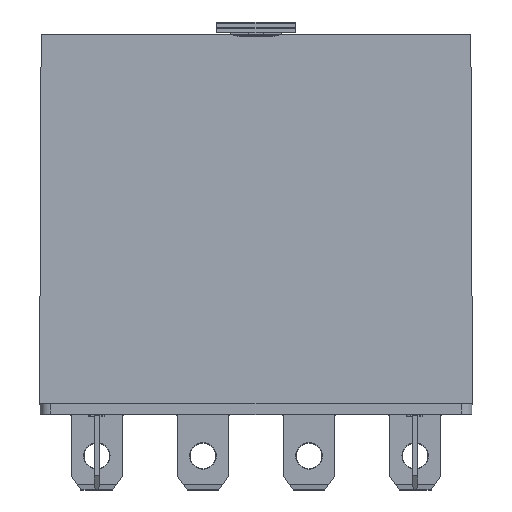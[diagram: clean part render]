
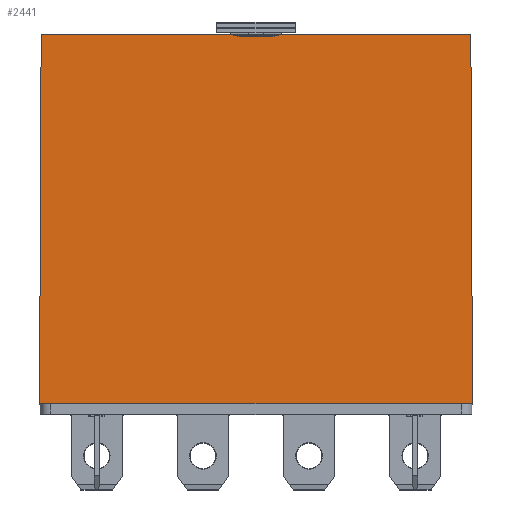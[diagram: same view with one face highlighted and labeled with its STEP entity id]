
A CAD part, top view. The second image highlights one B-rep face of the part: STEP entity #2441.
In plain terms, the highlighted planar face has unit normal (0, 0.004, 1).
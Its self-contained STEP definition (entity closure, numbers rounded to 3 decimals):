
#111 = DIRECTION ( 'NONE',  ( -0.004, -1., 0.004 ) ) ;
#153 = CARTESIAN_POINT ( 'NONE',  ( -1.5, 35.6, 13.349 ) ) ;
#259 = EDGE_CURVE ( 'NONE', #19623, #23112, #10386, .T. ) ;
#450 = LINE ( 'NONE', #23294, #26984 ) ;
#915 = DIRECTION ( 'NONE',  ( 0.981, 0.196, -0.001 ) ) ;
#1176 = CARTESIAN_POINT ( 'NONE',  ( -20.4, 35.6, 13.349 ) ) ;
#1649 = LINE ( 'NONE', #1176, #28207 ) ;
#2441 = ADVANCED_FACE ( 'NONE', ( #2612 ), #30507, .T. ) ;
#2612 = FACE_OUTER_BOUND ( 'NONE', #15776, .T. ) ;
#2724 = CARTESIAN_POINT ( 'NONE',  ( -20.4, 35.8, 13.348 ) ) ;
#2886 = VECTOR ( 'NONE', #30440, 1000. ) ;
#3334 = CARTESIAN_POINT ( 'NONE',  ( -20.4, 35.8, 13.348 ) ) ;
#3533 = CARTESIAN_POINT ( 'NONE',  ( 2.5, 35.8, 13.348 ) ) ;
#4256 = DIRECTION ( 'NONE',  ( 1., 0., 0. ) ) ;
#4680 = EDGE_CURVE ( 'NONE', #13807, #13220, #26251, .T. ) ;
#4744 = ORIENTED_EDGE ( 'NONE', *, *, #259, .F. ) ;
#4849 = DIRECTION ( 'NONE',  ( 0., 0.004, 1. ) ) ;
#5200 = ORIENTED_EDGE ( 'NONE', *, *, #12425, .T. ) ;
#5671 = VECTOR ( 'NONE', #915, 1000. ) ;
#6129 = CARTESIAN_POINT ( 'NONE',  ( -20.4, 1., 13.5 ) ) ;
#6434 = EDGE_CURVE ( 'NONE', #21029, #29337, #1649, .T. ) ;
#6663 = DIRECTION ( 'NONE',  ( 0.004, -1., 0.004 ) ) ;
#6813 = EDGE_CURVE ( 'NONE', #29337, #19623, #12503, .T. ) ;
#7185 = VECTOR ( 'NONE', #6663, 1000. ) ;
#7342 = CARTESIAN_POINT ( 'NONE',  ( 20.4, 1., 13.5 ) ) ;
#8730 = ORIENTED_EDGE ( 'NONE', *, *, #32806, .F. ) ;
#9857 = AXIS2_PLACEMENT_3D ( 'NONE', #20217, #4849, #22827 ) ;
#10144 = CARTESIAN_POINT ( 'NONE',  ( -13.019, 37.904, 13.339 ) ) ;
#10386 = LINE ( 'NONE', #2724, #23254 ) ;
#10943 = CARTESIAN_POINT ( 'NONE',  ( 1.5, 35.6, 13.349 ) ) ;
#11847 = ORIENTED_EDGE ( 'NONE', *, *, #26384, .F. ) ;
#11903 = CARTESIAN_POINT ( 'NONE',  ( -20.4, 1., 13.5 ) ) ;
#12425 = EDGE_CURVE ( 'NONE', #13220, #16430, #25039, .T. ) ;
#12503 = LINE ( 'NONE', #26543, #5671 ) ;
#12902 = EDGE_CURVE ( 'NONE', #16430, #29710, #16544, .T. ) ;
#13220 = VERTEX_POINT ( 'NONE', #6129 ) ;
#13403 = VECTOR ( 'NONE', #28126, 1000. ) ;
#13414 = VERTEX_POINT ( 'NONE', #7342 ) ;
#13807 = VERTEX_POINT ( 'NONE', #31747 ) ;
#15642 = DIRECTION ( 'NONE',  ( 1., 0., 0. ) ) ;
#15776 = EDGE_LOOP ( 'NONE', ( #8730, #11847, #21261, #5200, #18588, #22574, #31588, #4744, #20368, #22498 ) ) ;
#16430 = VERTEX_POINT ( 'NONE', #21141 ) ;
#16544 = LINE ( 'NONE', #27820, #2886 ) ;
#16937 = DIRECTION ( 'NONE',  ( 1., 0., 0. ) ) ;
#17584 = VECTOR ( 'NONE', #31812, 1000. ) ;
#18588 = ORIENTED_EDGE ( 'NONE', *, *, #12902, .T. ) ;
#19370 = VECTOR ( 'NONE', #111, 1000. ) ;
#19405 = CARTESIAN_POINT ( 'NONE',  ( 20.399, 1.118, 13.499 ) ) ;
#19623 = VERTEX_POINT ( 'NONE', #3533 ) ;
#20217 = CARTESIAN_POINT ( 'NONE',  ( -20.4, 1., 13.5 ) ) ;
#20368 = ORIENTED_EDGE ( 'NONE', *, *, #6813, .F. ) ;
#21029 = VERTEX_POINT ( 'NONE', #153 ) ;
#21141 = CARTESIAN_POINT ( 'NONE',  ( -19.35, 1., 13.5 ) ) ;
#21261 = ORIENTED_EDGE ( 'NONE', *, *, #4680, .T. ) ;
#22498 = ORIENTED_EDGE ( 'NONE', *, *, #6434, .F. ) ;
#22574 = ORIENTED_EDGE ( 'NONE', *, *, #24289, .T. ) ;
#22827 = DIRECTION ( 'NONE',  ( 1., 0., 0. ) ) ;
#23112 = VERTEX_POINT ( 'NONE', #26943 ) ;
#23254 = VECTOR ( 'NONE', #16937, 1000. ) ;
#23294 = CARTESIAN_POINT ( 'NONE',  ( -20.4, 1., 13.5 ) ) ;
#24236 = VECTOR ( 'NONE', #4256, 1000. ) ;
#24289 = EDGE_CURVE ( 'NONE', #29710, #13414, #450, .T. ) ;
#24986 = VERTEX_POINT ( 'NONE', #28532 ) ;
#25039 = LINE ( 'NONE', #11903, #24236 ) ;
#25733 = CARTESIAN_POINT ( 'NONE',  ( -20.4, 1., 13.5 ) ) ;
#26234 = EDGE_CURVE ( 'NONE', #23112, #13414, #27677, .T. ) ;
#26251 = LINE ( 'NONE', #25733, #19370 ) ;
#26384 = EDGE_CURVE ( 'NONE', #13807, #24986, #31334, .T. ) ;
#26543 = CARTESIAN_POINT ( 'NONE',  ( -26.212, 30.058, 13.373 ) ) ;
#26943 = CARTESIAN_POINT ( 'NONE',  ( 20.248, 35.8, 13.348 ) ) ;
#26984 = VECTOR ( 'NONE', #15642, 1000. ) ;
#27677 = LINE ( 'NONE', #19405, #7185 ) ;
#27820 = CARTESIAN_POINT ( 'NONE',  ( -20.4, 1., 13.5 ) ) ;
#28126 = DIRECTION ( 'NONE',  ( 0.981, -0.196, 0.001 ) ) ;
#28207 = VECTOR ( 'NONE', #32134, 1000. ) ;
#28532 = CARTESIAN_POINT ( 'NONE',  ( -2.5, 35.8, 13.348 ) ) ;
#29337 = VERTEX_POINT ( 'NONE', #10943 ) ;
#29710 = VERTEX_POINT ( 'NONE', #30738 ) ;
#30440 = DIRECTION ( 'NONE',  ( 1., 0., 0. ) ) ;
#30507 = PLANE ( 'NONE',  #9857 ) ;
#30738 = CARTESIAN_POINT ( 'NONE',  ( 19.35, 1., 13.5 ) ) ;
#31334 = LINE ( 'NONE', #3334, #17584 ) ;
#31588 = ORIENTED_EDGE ( 'NONE', *, *, #26234, .F. ) ;
#31747 = CARTESIAN_POINT ( 'NONE',  ( -20.248, 35.8, 13.348 ) ) ;
#31812 = DIRECTION ( 'NONE',  ( 1., 0., 0. ) ) ;
#32134 = DIRECTION ( 'NONE',  ( 1., 0., 0. ) ) ;
#32806 = EDGE_CURVE ( 'NONE', #24986, #21029, #33169, .T. ) ;
#33169 = LINE ( 'NONE', #10144, #13403 ) ;
